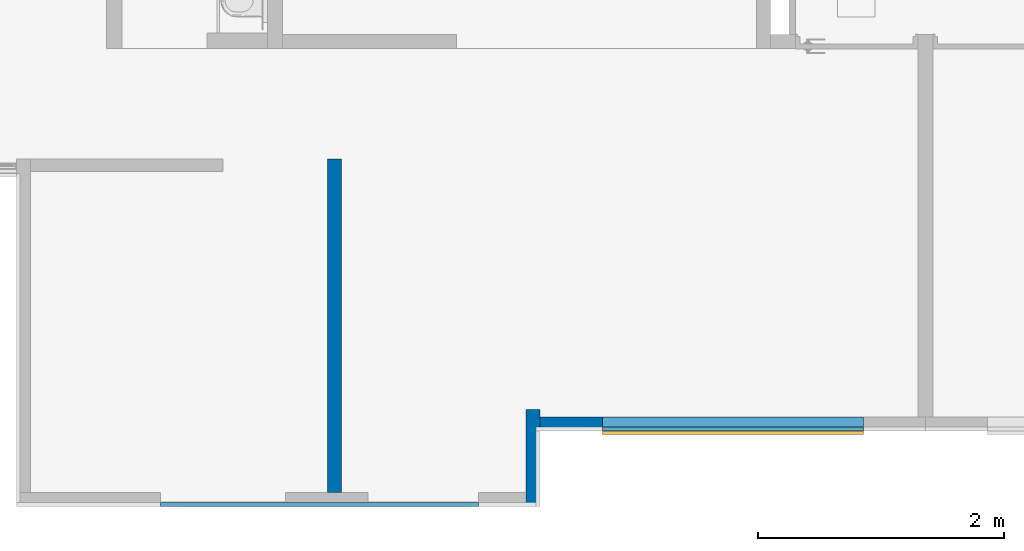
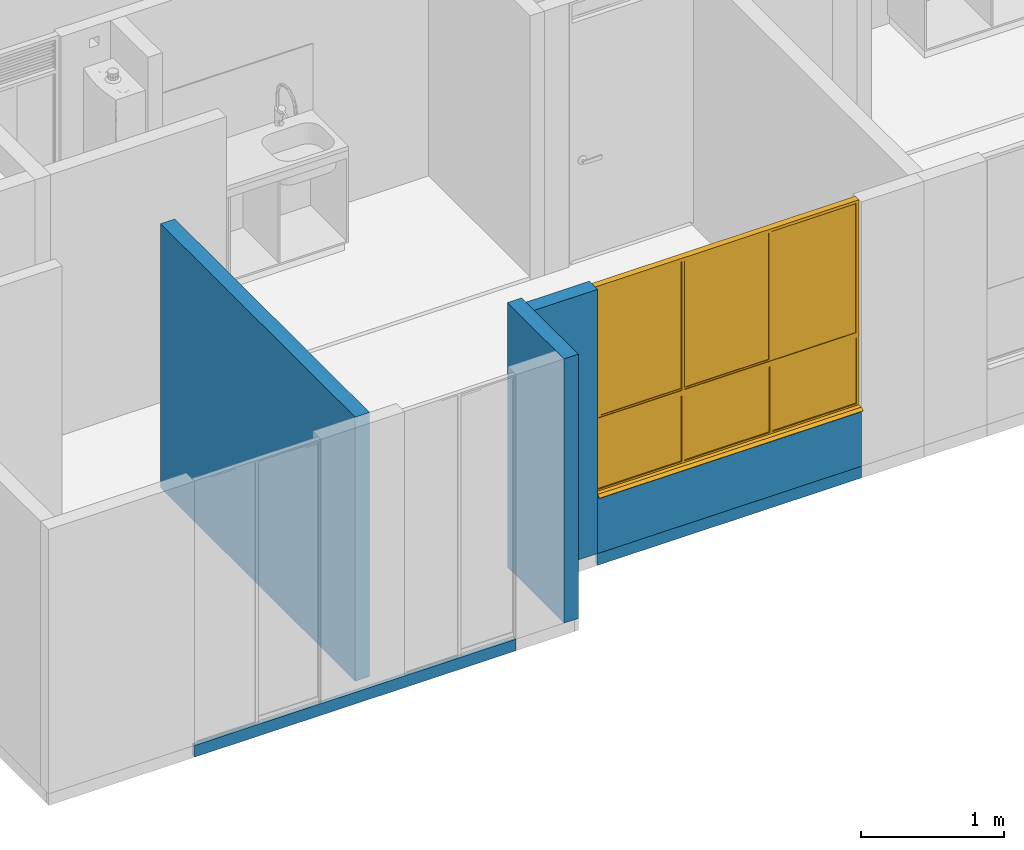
# One storey, part 6 of 47: 6 walls, 1 window, 1 opening.
"""IFC4 building model written with IfcOpenShell, lengths in metres."""

from ifc_helpers import new_model, entity, si_unit, converted_unit, derived_unit, direction, frame, origin, place, context, subcontext, project, spatial, indexed_curve, outline, extrude, polygons, source, transform, mapped, material, constituent, constituent_set, type_object, type_shapes, element, fill, save


model = new_model("IFC4")

# Units and contexts
model_context = context("Model", 3, precision=1e-05, world=origin(), true_north=direction((6.123031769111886e-17, 1.0)))
body_context = subcontext(model_context, "Body", "Model", "MODEL_VIEW")
ifc_project = project(units=[si_unit("LENGTHUNIT", "METRE"), si_unit("AREAUNIT", "SQUARE_METRE"), si_unit("VOLUMEUNIT", "CUBIC_METRE"), converted_unit("PLANEANGLEUNIT", "DEGREE", entity("IfcRatioMeasure", 0.017453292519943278), si_unit("PLANEANGLEUNIT", "RADIAN"), dimensions=[0, 0, 0, 0, 0, 0, 0]), si_unit("MASSUNIT", "GRAM", prefix="KILO"), derived_unit("MASSDENSITYUNIT", [(si_unit("MASSUNIT", "GRAM", prefix="KILO"), 1), (si_unit("LENGTHUNIT", "METRE"), -3)]), derived_unit("IONCONCENTRATIONUNIT", [(si_unit("MASSUNIT", "GRAM", prefix="KILO"), 1), (si_unit("LENGTHUNIT", "METRE"), -3)]), derived_unit("MOMENTOFINERTIAUNIT", [(si_unit("LENGTHUNIT", "METRE"), 4)]), si_unit("TIMEUNIT", "SECOND"), si_unit("FREQUENCYUNIT", "HERTZ"), si_unit("THERMODYNAMICTEMPERATUREUNIT", "DEGREE_CELSIUS"), derived_unit("THERMALTRANSMITTANCEUNIT", [(si_unit("MASSUNIT", "GRAM", prefix="KILO"), 1), (si_unit("THERMODYNAMICTEMPERATUREUNIT", "KELVIN"), -1), (si_unit("TIMEUNIT", "SECOND"), -3)]), derived_unit("THERMALCONDUCTANCEUNIT", [(si_unit("MASSUNIT", "GRAM", prefix="KILO"), 1), (si_unit("THERMODYNAMICTEMPERATUREUNIT", "KELVIN"), -1), (si_unit("TIMEUNIT", "SECOND"), -3), (si_unit("LENGTHUNIT", "METRE"), 1)]), derived_unit("VOLUMETRICFLOWRATEUNIT", [(si_unit("LENGTHUNIT", "METRE"), 3), (si_unit("TIMEUNIT", "SECOND"), -1)]), derived_unit("MASSFLOWRATEUNIT", [(si_unit("MASSUNIT", "GRAM", prefix="KILO"), 1), (si_unit("TIMEUNIT", "SECOND"), -1)]), derived_unit("ROTATIONALFREQUENCYUNIT", [(si_unit("TIMEUNIT", "SECOND"), -1)]), si_unit("ELECTRICCURRENTUNIT", "AMPERE"), si_unit("ELECTRICVOLTAGEUNIT", "VOLT"), si_unit("POWERUNIT", "WATT"), si_unit("FORCEUNIT", "NEWTON", prefix="KILO"), si_unit("ILLUMINANCEUNIT", "LUX"), si_unit("LUMINOUSFLUXUNIT", "LUMEN"), si_unit("LUMINOUSINTENSITYUNIT", "CANDELA"), derived_unit("USERDEFINED", [(si_unit("MASSUNIT", "GRAM", prefix="KILO"), -1), (si_unit("LENGTHUNIT", "METRE"), -2), (si_unit("TIMEUNIT", "SECOND"), 3), (si_unit("LUMINOUSFLUXUNIT", "LUMEN"), 1)]), derived_unit("USERDEFINED", [(si_unit("MASSUNIT", "GRAM", prefix="KILO"), 1), (si_unit("TIMEUNIT", "SECOND"), -3), (si_unit("LENGTHUNIT", "METRE"), 3), (si_unit("ELECTRICCURRENTUNIT", "AMPERE"), -2)]), derived_unit("SOUNDPOWERUNIT", [(si_unit("MASSUNIT", "GRAM", prefix="KILO"), 1), (si_unit("TIMEUNIT", "SECOND"), -3), (si_unit("LENGTHUNIT", "METRE"), 2)]), derived_unit("SOUNDPRESSUREUNIT", [(si_unit("MASSUNIT", "GRAM", prefix="KILO"), 1), (si_unit("LENGTHUNIT", "METRE"), -1), (si_unit("TIMEUNIT", "SECOND"), -2)]), derived_unit("LINEARVELOCITYUNIT", [(si_unit("LENGTHUNIT", "METRE"), 1), (si_unit("TIMEUNIT", "SECOND"), -1)]), si_unit("PRESSUREUNIT", "PASCAL"), derived_unit("USERDEFINED", [(si_unit("MASSUNIT", "GRAM", prefix="KILO"), 1), (si_unit("LENGTHUNIT", "METRE"), -2), (si_unit("TIMEUNIT", "SECOND"), -2)]), derived_unit("LINEARFORCEUNIT", [(si_unit("MASSUNIT", "GRAM", prefix="KILO"), 1), (si_unit("TIMEUNIT", "SECOND"), -2)]), derived_unit("PLANARFORCEUNIT", [(si_unit("MASSUNIT", "GRAM", prefix="KILO"), 1), (si_unit("LENGTHUNIT", "METRE"), -1), (si_unit("TIMEUNIT", "SECOND"), -2)]), derived_unit("SPECIFICHEATCAPACITYUNIT", [(si_unit("THERMODYNAMICTEMPERATUREUNIT", "KELVIN"), -1), (si_unit("LENGTHUNIT", "METRE"), 2), (si_unit("TIMEUNIT", "SECOND"), -2)]), derived_unit("HEATINGVALUEUNIT", [(si_unit("LENGTHUNIT", "METRE"), 2), (si_unit("TIMEUNIT", "SECOND"), -2)]), derived_unit("VAPORPERMEABILITYUNIT", [(si_unit("LENGTHUNIT", "METRE"), -1), (si_unit("TIMEUNIT", "SECOND"), 1)]), derived_unit("DYNAMICVISCOSITYUNIT", [(si_unit("MASSUNIT", "GRAM", prefix="KILO"), 1), (si_unit("TIMEUNIT", "SECOND"), -1), (si_unit("LENGTHUNIT", "METRE"), -1)]), derived_unit("THERMALEXPANSIONCOEFFICIENTUNIT", [(si_unit("THERMODYNAMICTEMPERATUREUNIT", "KELVIN"), -1)]), derived_unit("MODULUSOFELASTICITYUNIT", [(si_unit("MASSUNIT", "GRAM", prefix="KILO"), 1), (si_unit("LENGTHUNIT", "METRE"), -1), (si_unit("TIMEUNIT", "SECOND"), -2)]), derived_unit("ISOTHERMALMOISTURECAPACITYUNIT", [(si_unit("LENGTHUNIT", "METRE"), 3), (si_unit("MASSUNIT", "GRAM", prefix="KILO"), -1)]), derived_unit("MOISTUREDIFFUSIVITYUNIT", [(si_unit("TIMEUNIT", "SECOND"), -1), (si_unit("LENGTHUNIT", "METRE"), 2)])], contexts=[model_context])

# Site, building, storey
site_placement = place(None, origin())
site = spatial("IfcSite", under=ifc_project, at=site_placement, Name="Default", CompositionType="ELEMENT")
building_placement = place(site_placement, origin())
building = spatial("IfcBuilding", under=site, at=building_placement, CompositionType="ELEMENT")
storey_placement = place(building_placement, frame((0.0, 0.0, 11.750000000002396)))
storey = spatial("IfcBuildingStorey", under=building, at=storey_placement, Name="Nivel 6", CompositionType="ELEMENT", Elevation=11.750000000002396)

# Wall
ifc_material_1 = material(Name="Ladrillo claro (Aire)", Category="Materials")
wall_type_1 = type_object("IfcWallType", Name="Basic Wall:B2010 - 0.115m - Muro exterior en mampostería - Ladrillo", PredefinedType="STANDARD")
wall_1_placement = place(storey_placement, frame((6.124999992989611, -12.870000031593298, 0.0), z_axis=(0.0, 0.0, 1.0), x_axis=(0.0, 1.0, 0.0)))
element("IfcWall", 1, at=wall_1_placement, inside=storey, type_object=wall_type_1, material=ifc_material_1, Name="Basic Wall:B2010 - 0.115m - Muro exterior en mampostería - Ladrillo", ObjectType="Basic Wall:B2010 - 0.115m - Muro exterior en mampostería - Ladrillo", PredefinedType="NOTDEFINED", context=body_context, shape_type="SweptSolid", body=[
    extrude(outline(indexed_curve([(0.7899180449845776, 0.057499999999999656), (-6.109124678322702e-16, 0.057499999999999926), (6.109124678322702e-16, -0.057499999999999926), (0.789918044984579, -0.0575000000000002), (0.7899180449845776, 0.057499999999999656)], self_intersect=False)), origin(), (0.0, 0.0, 1.0), 2.2500000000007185),
])

# Wall, opening, window
wall_2_placement = place(storey_placement, frame((6.692499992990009, -12.197500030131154, 0.0)))
wall_2 = element("IfcWall", 2, at=wall_2_placement, inside=storey, type_object=wall_type_1, material=ifc_material_1, Name="Basic Wall:B2010 - 0.115m - Muro exterior en mampostería - Ladrillo", ObjectType="Basic Wall:B2010 - 0.115m - Muro exterior en mampostería - Ladrillo", PredefinedType="NOTDEFINED", context=body_context, shape_type="Tessellation", body=[
    polygons([(1.7081032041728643e-15, -0.057499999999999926, -2.1657342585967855e-15), (2.1249999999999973, -0.057499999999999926, -2.1657342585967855e-15), (2.1249999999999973, -0.057499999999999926, 0.5000000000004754), (1.7081032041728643e-15, -0.057499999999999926, 0.5000000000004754), (2.1249999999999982, 0.057499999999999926, -2.1657342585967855e-15), (5.438200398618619e-16, 0.057499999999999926, -2.1657342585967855e-15), (5.438200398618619e-16, 0.057499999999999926, 0.5000000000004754), (2.1249999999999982, 0.057499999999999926, 0.5000000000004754)], [[[1, 2, 3, 4]], [[5, 6, 7, 8]], [[2, 1, 6, 5]], [[2, 5, 8, 3]], [[6, 1, 4, 7]], [[4, 3, 8, 7]]], closed=True),
])
opening_placement = place(wall_2_placement, frame((2.125000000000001, 0.05749999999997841, 0.5000000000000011)))
opening = element("IfcOpeningElement", 3, at=opening_placement, cuts=wall_2, Name="B2020 - 6c Ventana corrediza - Aluminio + Vidrio:B2020 -2.13m x 1.750m - Ventana corrediza 2C - Aluminio + Vidrio:1", PredefinedType="OPENING", context=body_context, shape_type="SweptSolid", body=[
    extrude(outline(indexed_curve([(0.0, -4.087553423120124e-33), (1.7500000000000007, -4.087553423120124e-33), (1.7499999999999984, 2.125), (0.0, 2.125), (0.0, -4.087553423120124e-33)], self_intersect=False)), frame((0.0, 0.0, 0.0), z_axis=(0.0, -1.0, 0.0), x_axis=(0.0, 0.0, 1.0)), (0.0, 0.0, 1.0), 0.115),
])
ifc_material_2 = material(Name="Aluminio", Category="Materials")
ifc_constituent_1 = constituent(ifc_material_2, Name="Aluminio", Category="Materials")
ifc_material_3 = material(Name="Vidrio", Category="Materials")
ifc_constituent_2 = constituent(ifc_material_3, Name="Vidrio", Category="Materials")
ifc_material_4 = material(Name="Alfajía en aluminio", Category="Materials")
ifc_constituent_3 = constituent(ifc_material_4, Name="Alfajía en aluminio", Category="Materials")
ifc_constituent_set_1 = constituent_set(constituents=[ifc_constituent_1, ifc_constituent_2, ifc_constituent_3])
ifc_constituent_4 = constituent(ifc_material_2, Name="Aluminio", Category="Materials")
ifc_constituent_5 = constituent(ifc_material_3, Name="Vidrio", Category="Materials")
ifc_constituent_6 = constituent(ifc_material_4, Name="Alfajía en aluminio", Category="Materials")
ifc_constituent_set_2 = constituent_set(constituents=[ifc_constituent_4, ifc_constituent_5, ifc_constituent_6])
window_type = type_object("IfcWindowType", Name="B2020 - 6c Ventana corrediza - Aluminio + Vidrio:B2020 -2.13m x 1.750m - Ventana corrediza 2C - Aluminio + Vidrio", PartitioningType="NOTDEFINED", PredefinedType="WINDOW", material=ifc_constituent_set_2)
shared_shape = source(origin(), body_context, "Body", "Tessellation", [
    polygons([(0.024999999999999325, 0.03749999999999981, 1.7249999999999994), (0.025000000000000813, 0.032499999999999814, 1.7249999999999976), (0.025000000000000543, 0.032499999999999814, 0.6249999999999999), (0.024999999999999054, 0.03749999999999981, 0.6249999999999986), (2.1249999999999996, 0.03249999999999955, 0.5999999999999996), (2.1249999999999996, 0.03249999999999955, 1.749999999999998), (5.414335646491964e-16, 0.032499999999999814, 1.749999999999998), (2.707167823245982e-16, 0.032499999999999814, 0.5999999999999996), (2.099999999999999, 0.03249999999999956, 0.6249999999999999), (2.099999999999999, 0.032499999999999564, 1.7249999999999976), (2.1000000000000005, 0.03749999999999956, 0.6249999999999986), (2.1000000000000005, 0.03749999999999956, 1.7249999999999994), (2.1050000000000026, 0.03749999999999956, 0.6199999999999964), (0.01999999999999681, 0.03749999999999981, 0.6199999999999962), (0.01999999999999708, 0.03749999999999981, 1.7300000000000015), (2.1050000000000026, 0.03749999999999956, 1.7300000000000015), (0.01999999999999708, 0.05499999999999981, 1.7300000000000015), (0.01999999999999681, 0.05499999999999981, 0.6199999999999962), (2.1050000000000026, 0.05499999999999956, 0.6199999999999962), (2.1050000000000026, 0.05499999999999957, 1.7300000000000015), (2.099999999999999, 0.05499999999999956, 0.6249999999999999), (0.025000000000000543, 0.05499999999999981, 0.6249999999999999), (0.025000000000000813, 0.05499999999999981, 1.7249999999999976), (2.099999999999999, 0.05499999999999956, 1.7249999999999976), (0.025000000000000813, 0.05999999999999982, 1.7249999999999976), (0.025000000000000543, 0.05999999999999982, 0.6249999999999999), (2.099999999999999, 0.059999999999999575, 0.6249999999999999), (2.099999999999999, 0.059999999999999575, 1.7249999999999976), (2.119999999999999, 0.05999999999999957, 0.6049999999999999), (0.005000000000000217, 0.05999999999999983, 0.6049999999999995), (0.0050000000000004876, 0.05999999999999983, 1.744999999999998), (2.119999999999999, 0.05999999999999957, 1.744999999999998), (0.0050000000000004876, 0.07749999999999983, 1.744999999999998), (0.005000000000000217, 0.07749999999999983, 0.6049999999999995), (2.119999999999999, 0.07749999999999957, 0.6049999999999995), (2.119999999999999, 0.07749999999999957, 1.744999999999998), (2.099999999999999, 0.07749999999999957, 0.6249999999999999), (0.025000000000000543, 0.07749999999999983, 0.6249999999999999), (0.025000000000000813, 0.07749999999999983, 1.7249999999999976), (2.099999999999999, 0.07749999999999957, 1.7249999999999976), (0.025000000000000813, 0.08249999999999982, 1.7249999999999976), (0.025000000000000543, 0.08249999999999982, 0.6249999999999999), (2.099999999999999, 0.08249999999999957, 0.6249999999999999), (2.099999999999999, 0.08249999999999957, 1.7249999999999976), (2.1249999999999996, 0.08249999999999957, 0.5999999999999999), (2.707167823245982e-16, 0.08249999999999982, 0.5999999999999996), (5.414335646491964e-16, 0.08249999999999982, 1.749999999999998), (2.1249999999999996, 0.08249999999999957, 1.749999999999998)], [[[1, 2, 3, 4]], [[5, 6, 7, 8], [9, 3, 2, 10]], [[4, 3, 9, 11]], [[13, 14, 15, 16], [11, 12, 1, 4]], [[17, 15, 14, 18]], [[18, 14, 13, 19]], [[19, 20, 17, 18], [21, 22, 23, 24]], [[25, 23, 22, 26]], [[26, 22, 21, 27]], [[29, 30, 31, 32], [27, 28, 25, 26]], [[33, 31, 30, 34]], [[34, 30, 29, 35]], [[35, 36, 33, 34], [37, 38, 39, 40]], [[41, 39, 38, 42]], [[42, 38, 37, 43]], [[45, 46, 47, 48], [43, 44, 41, 42]], [[7, 47, 46, 8]], [[8, 46, 45, 5]], [[11, 9, 10, 12]], [[19, 13, 16, 20]], [[27, 21, 24, 28]], [[35, 29, 32, 36]], [[43, 37, 40, 44]], [[5, 45, 48, 6]], [[12, 10, 2, 1]], [[20, 16, 15, 17]], [[28, 24, 23, 25]], [[36, 32, 31, 33]], [[44, 40, 39, 41]], [[6, 48, 47, 7]]], closed=True),
    polygons([(1.4266666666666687, 0.08249999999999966, 0.6249999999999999), (1.4266666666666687, 0.05999999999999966, 0.6249999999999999), (1.406666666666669, 0.05999999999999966, 0.6249999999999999), (1.406666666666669, 0.08249999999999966, 0.6249999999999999), (1.4266666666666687, 0.08249999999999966, 1.7249999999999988), (1.4266666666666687, 0.05999999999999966, 1.7249999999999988), (1.406666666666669, 0.05999999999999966, 1.7249999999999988), (1.406666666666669, 0.08249999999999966, 1.7249999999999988)], [[[1, 2, 3, 4]], [[5, 6, 2, 1]], [[6, 7, 3, 2]], [[7, 8, 4, 3]], [[8, 5, 1, 4]], [[5, 8, 7, 6]]], closed=True),
    polygons([(0.7058333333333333, 0.06674999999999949, 1.7299999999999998), (0.7058333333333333, 0.06674999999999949, 0.6174999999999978), (2.099999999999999, 0.06674999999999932, 0.6174999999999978), (2.099999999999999, 0.06674999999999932, 1.7299999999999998), (0.7058333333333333, 0.0707499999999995, 1.7299999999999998), (0.7058333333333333, 0.0707499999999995, 0.6174999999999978), (2.099999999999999, 0.07074999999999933, 0.6174999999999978), (2.099999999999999, 0.07074999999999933, 1.7299999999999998)], [[[1, 2, 3, 4]], [[2, 1, 5, 6]], [[3, 2, 6, 7]], [[4, 3, 7, 8]], [[5, 8, 7, 6]], [[1, 4, 8, 5]]], closed=True),
    polygons([(0.7058333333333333, 0.07074999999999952, 0.6225000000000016), (0.7058333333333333, 0.06674999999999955, 0.6225000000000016), (2.095000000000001, 0.06674999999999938, 0.6225000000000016), (2.095000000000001, 0.07074999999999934, 0.6225000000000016), (2.0950000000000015, 0.06674999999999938, 1.730000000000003), (2.0950000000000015, 0.07074999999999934, 1.730000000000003), (0.7058333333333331, 0.06674999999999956, 1.730000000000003), (2.0800000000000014, 0.06674999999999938, 1.7150000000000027), (0.7208333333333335, 0.06674999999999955, 1.7150000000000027), (0.7208333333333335, 0.06674999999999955, 0.637500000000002), (2.080000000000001, 0.06674999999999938, 0.637500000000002), (2.080000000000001, 0.07074999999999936, 0.6375000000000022), (0.7208333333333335, 0.07074999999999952, 0.637500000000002), (0.7208333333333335, 0.07074999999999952, 1.7150000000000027), (2.0800000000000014, 0.07074999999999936, 1.7150000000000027), (0.7058333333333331, 0.07074999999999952, 1.730000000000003), (0.7208333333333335, 0.07549999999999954, 0.637500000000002), (2.080000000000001, 0.07549999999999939, 0.637500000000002), (2.0800000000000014, 0.07549999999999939, 1.7150000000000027), (2.1000000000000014, 0.07549999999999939, 0.6175000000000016), (0.7008333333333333, 0.07549999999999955, 0.6175000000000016), (0.7008333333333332, 0.07549999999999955, 1.735000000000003), (2.1000000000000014, 0.07549999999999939, 1.735000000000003), (0.7208333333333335, 0.07549999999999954, 1.7150000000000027), (0.7008333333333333, 0.06199999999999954, 0.6175000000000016), (2.1000000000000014, 0.061999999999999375, 0.6175000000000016), (2.1000000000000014, 0.061999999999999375, 1.735000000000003), (2.080000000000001, 0.06199999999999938, 0.6375000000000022), (0.7208333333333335, 0.06199999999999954, 0.637500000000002), (0.7208333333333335, 0.06199999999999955, 1.7150000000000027), (2.0800000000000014, 0.06199999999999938, 1.7150000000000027), (0.7008333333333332, 0.06199999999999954, 1.735000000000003)], [[[1, 2, 3, 4]], [[4, 3, 5, 6]], [[3, 2, 7, 5], [8, 9, 10, 11]], [[6, 16, 1, 4], [12, 13, 14, 15]], [[17, 13, 12, 18]], [[18, 12, 15, 19]], [[20, 21, 22, 23], [19, 24, 17, 18]], [[25, 21, 20, 26]], [[26, 20, 23, 27]], [[27, 32, 25, 26], [28, 29, 30, 31]], [[10, 29, 28, 11]], [[11, 28, 31, 8]], [[16, 7, 2, 1]], [[24, 14, 13, 17]], [[32, 22, 21, 25]], [[9, 30, 29, 10]], [[6, 5, 7, 16]], [[19, 15, 14, 24]], [[27, 23, 22, 32]], [[8, 31, 30, 9]]], closed=True),
    polygons([(0.025000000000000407, 0.04424999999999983, 1.7299999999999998), (0.025000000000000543, 0.04424999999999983, 0.6174999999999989), (0.713333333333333, 0.04424999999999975, 0.6174999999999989), (0.7133333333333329, 0.04424999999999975, 1.7299999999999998), (0.025000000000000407, 0.04824999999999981, 1.7299999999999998), (0.025000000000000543, 0.04824999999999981, 0.6174999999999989), (0.713333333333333, 0.048249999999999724, 0.6174999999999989), (0.7133333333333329, 0.048249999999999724, 1.7299999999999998)], [[[1, 2, 3, 4]], [[2, 1, 5, 6]], [[3, 2, 6, 7]], [[4, 3, 7, 8]], [[5, 8, 7, 6]], [[1, 4, 8, 5]]], closed=True),
    polygons([(0.025000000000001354, 0.04824999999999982, 0.6224999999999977), (0.025000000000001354, 0.04424999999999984, 0.6224999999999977), (0.713333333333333, 0.044249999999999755, 0.6224999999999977), (0.713333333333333, 0.04824999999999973, 0.6224999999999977), (0.713333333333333, 0.044249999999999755, 1.729999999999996), (0.713333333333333, 0.04824999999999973, 1.729999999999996), (0.025000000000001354, 0.04424999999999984, 1.729999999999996), (0.6983333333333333, 0.044249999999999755, 1.714999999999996), (0.040000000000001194, 0.04424999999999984, 1.714999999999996), (0.040000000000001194, 0.04424999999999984, 0.6374999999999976), (0.6983333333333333, 0.044249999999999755, 0.6374999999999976), (0.6983333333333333, 0.04824999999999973, 0.6374999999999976), (0.040000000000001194, 0.04824999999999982, 0.6374999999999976), (0.040000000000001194, 0.04824999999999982, 1.714999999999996), (0.6983333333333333, 0.04824999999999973, 1.714999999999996), (0.025000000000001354, 0.04824999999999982, 1.729999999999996), (0.040000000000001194, 0.052999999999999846, 0.6374999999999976), (0.6983333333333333, 0.05299999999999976, 0.6374999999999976), (0.6983333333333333, 0.05299999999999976, 1.714999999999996), (0.7183333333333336, 0.052999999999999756, 0.6174999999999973), (0.020000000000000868, 0.052999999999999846, 0.6174999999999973), (0.020000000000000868, 0.052999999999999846, 1.7349999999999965), (0.7183333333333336, 0.05299999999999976, 1.7349999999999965), (0.040000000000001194, 0.052999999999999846, 1.714999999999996), (0.020000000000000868, 0.03949999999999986, 0.6174999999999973), (0.7183333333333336, 0.03949999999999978, 0.6174999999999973), (0.7183333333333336, 0.03949999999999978, 1.7349999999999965), (0.6983333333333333, 0.039499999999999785, 0.6374999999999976), (0.040000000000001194, 0.039499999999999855, 0.6374999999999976), (0.040000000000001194, 0.039499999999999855, 1.714999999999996), (0.6983333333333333, 0.03949999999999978, 1.714999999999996), (0.020000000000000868, 0.03949999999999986, 1.7349999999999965)], [[[1, 2, 3, 4]], [[4, 3, 5, 6]], [[3, 2, 7, 5], [8, 9, 10, 11]], [[6, 16, 1, 4], [12, 13, 14, 15]], [[17, 13, 12, 18]], [[18, 12, 15, 19]], [[20, 21, 22, 23], [19, 24, 17, 18]], [[25, 21, 20, 26]], [[26, 20, 23, 27]], [[27, 32, 25, 26], [28, 29, 30, 31]], [[10, 29, 28, 11]], [[11, 28, 31, 8]], [[16, 7, 2, 1]], [[24, 14, 13, 17]], [[32, 22, 21, 25]], [[9, 30, 29, 10]], [[6, 5, 7, 16]], [[19, 15, 14, 24]], [[27, 23, 22, 32]], [[8, 31, 30, 9]]], closed=True),
    polygons([(2.1049999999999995, 0.04424999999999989, 1.7299999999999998), (0.025000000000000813, 0.04424999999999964, 1.7299999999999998), (0.025000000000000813, 0.04424999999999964, 0.6174999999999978), (2.1049999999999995, 0.04424999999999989, 0.6174999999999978), (0.025000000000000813, 0.04824999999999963, 1.7299999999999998), (0.025000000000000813, 0.04824999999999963, 0.6174999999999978), (2.1049999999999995, 0.04824999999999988, 0.6174999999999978), (2.1049999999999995, 0.04824999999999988, 1.7299999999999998)], [[[1, 2, 3, 4]], [[3, 2, 5, 6]], [[4, 3, 6, 7]], [[1, 4, 7, 8]], [[8, 7, 6, 5]], [[2, 1, 8, 5]]], closed=True),
    polygons([(0.020000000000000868, 0.06674999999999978, 1.7299999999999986), (0.020000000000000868, 0.06674999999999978, 0.6174999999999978), (2.1049999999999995, 0.06674999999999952, 0.6174999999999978), (2.104999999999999, 0.06674999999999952, 1.7299999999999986), (0.020000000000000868, 0.07074999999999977, 1.7299999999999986), (0.020000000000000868, 0.07074999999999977, 0.6174999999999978), (2.1049999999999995, 0.07074999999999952, 0.6174999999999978), (2.104999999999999, 0.07074999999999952, 1.7299999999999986)], [[[1, 2, 3, 4]], [[2, 1, 5, 6]], [[3, 2, 6, 7]], [[4, 3, 7, 8]], [[5, 8, 7, 6]], [[1, 4, 8, 5]]], closed=True),
    polygons([(0.019999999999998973, 0.06813901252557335, 0.5800000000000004), (0.01999999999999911, 0.06813901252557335, 0.019999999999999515), (2.1050000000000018, 0.06813901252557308, 0.019999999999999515), (2.1050000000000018, 0.06813901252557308, 0.5800000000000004), (0.019999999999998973, 0.07213901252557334, 0.5800000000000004), (2.1050000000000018, 0.07213901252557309, 0.5800000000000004), (2.1050000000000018, 0.07213901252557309, 0.019999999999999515), (0.01999999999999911, 0.07213901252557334, 0.019999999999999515)], [[[1, 2, 3, 4]], [[5, 6, 7, 8]], [[2, 1, 5, 8]], [[3, 2, 8, 7]], [[4, 3, 7, 6]], [[1, 4, 6, 5]]], closed=True),
    polygons([(1.4266666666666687, 0.08250000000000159, 0.5799999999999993), (1.406666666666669, 0.08250000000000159, 0.5799999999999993), (1.406666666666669, 0.03250000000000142, 0.5799999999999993), (1.4266666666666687, 0.03250000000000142, 0.5799999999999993), (1.4266666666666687, 0.08250000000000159, 0.019999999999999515), (1.4266666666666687, 0.03250000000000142, 0.019999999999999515), (1.406666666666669, 0.03250000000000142, 0.019999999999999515), (1.406666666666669, 0.08250000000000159, 0.019999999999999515)], [[[1, 2, 3, 4]], [[5, 6, 7, 8]], [[2, 1, 5, 8]], [[3, 2, 8, 7]], [[4, 3, 7, 6]], [[1, 4, 6, 5]]], closed=True),
    polygons([(4.060751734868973e-16, 0.08249999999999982, 4.060751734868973e-16), (2.707167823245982e-16, 0.08249999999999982, 0.5999999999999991), (2.1249999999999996, 0.08249999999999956, 0.5999999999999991), (2.125, 0.08249999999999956, 2.707167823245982e-16), (0.718333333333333, 0.08250000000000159, 0.5799999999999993), (0.718333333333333, 0.08250000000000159, 0.01999999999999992), (2.105, 0.0825000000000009, 0.020000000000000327), (2.105, 0.0825000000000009, 0.5799999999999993), (0.6983333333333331, 0.08250000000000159, 0.01999999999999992), (0.6983333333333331, 0.08250000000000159, 0.5799999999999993), (0.020000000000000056, 0.08250000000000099, 0.5799999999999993), (0.020000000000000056, 0.08250000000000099, 0.020000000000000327), (0.6983333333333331, 0.03250000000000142, 0.01999999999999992), (0.6983333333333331, 0.03250000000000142, 0.5799999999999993), (0.02000000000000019, 0.032499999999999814, 0.020000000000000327), (0.020000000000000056, 0.032499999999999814, 0.5799999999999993), (4.060751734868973e-16, 0.03250000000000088, 0.5999999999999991), (4.060751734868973e-16, 0.03250000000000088, 4.060751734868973e-16), (2.125, 0.0325000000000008, 4.060751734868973e-16), (2.125, 0.0325000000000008, 0.5999999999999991), (0.7183333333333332, 0.03250000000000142, 0.01999999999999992), (0.718333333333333, 0.03250000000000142, 0.5799999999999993), (2.105, 0.03249999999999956, 0.5799999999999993), (2.105, 0.03249999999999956, 0.020000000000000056)], [[[1, 2, 3, 4], [5, 6, 7, 8], [9, 10, 11, 12]], [[10, 9, 13, 14]], [[17, 18, 19, 20], [14, 13, 15, 16], [21, 22, 23, 24]], [[6, 5, 22, 21]], [[11, 16, 15, 12]], [[17, 2, 1, 18]], [[12, 15, 13, 9]], [[18, 1, 4, 19]], [[7, 24, 23, 8]], [[19, 4, 3, 20]], [[8, 23, 22, 5]], [[2, 17, 20, 3]], [[16, 11, 10, 14]], [[24, 7, 6, 21]]], closed=True),
    polygons([(0.7183333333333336, 0.07213901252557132, 0.5849999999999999), (0.7183333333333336, 0.06813901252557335, 0.5849999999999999), (2.1050000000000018, 0.06813901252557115, 0.5849999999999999), (2.1050000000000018, 0.07213901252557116, 0.5849999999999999), (0.7183333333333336, 0.07213901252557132, 0.019999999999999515), (2.1050000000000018, 0.07213901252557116, 0.019999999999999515), (2.1050000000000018, 0.06813901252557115, 0.019999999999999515), (0.7183333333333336, 0.06813901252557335, 0.019999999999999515)], [[[1, 2, 3, 4]], [[5, 6, 7, 8]], [[1, 4, 6, 5]], [[4, 3, 7, 6]], [[3, 2, 8, 7]], [[2, 1, 5, 8]]], closed=True),
    polygons([(-8.121503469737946e-16, 0.11499999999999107, -4.060751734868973e-16), (-8.121503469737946e-16, 0.08249999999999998, -4.060751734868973e-16), (-8.121503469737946e-16, 0.08249999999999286, 0.0049999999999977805), (-8.121503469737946e-16, 0.11633974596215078, 0.0049999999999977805), (-6.767919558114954e-16, 0.14348076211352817, -0.010669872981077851), (-6.767919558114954e-16, 0.1409807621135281, -0.015000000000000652), (2.124999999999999, 0.11499999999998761, -4.060751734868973e-16), (2.124999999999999, 0.14098076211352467, -0.015000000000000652), (2.124999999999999, 0.1434807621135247, -0.010669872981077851), (2.124999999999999, 0.11633974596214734, 0.0049999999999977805), (2.124999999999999, 0.0824999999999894, 0.0049999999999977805), (2.124999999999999, 0.08249999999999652, -4.060751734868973e-16)], [[[1, 2, 3, 4, 5, 6]], [[7, 8, 9, 10, 11, 12]], [[2, 1, 7, 12]], [[3, 2, 12, 11]], [[4, 3, 11, 10]], [[5, 4, 10, 9]], [[6, 5, 9, 8]], [[1, 6, 8, 7]]], closed=True),
    polygons([(0.6983333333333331, 0.07213901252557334, 0.5849999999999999), (0.01999999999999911, 0.07213901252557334, 0.5849999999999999), (0.019999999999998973, 0.06813901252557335, 0.5849999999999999), (0.6983333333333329, 0.06813901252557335, 0.5849999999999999), (0.6983333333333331, 0.07213901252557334, 0.019999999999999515), (0.6983333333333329, 0.06813901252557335, 0.019999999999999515), (0.019999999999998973, 0.06813901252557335, 0.019999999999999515), (0.01999999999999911, 0.07213901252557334, 0.019999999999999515)], [[[1, 2, 3, 4]], [[5, 6, 7, 8]], [[2, 1, 5, 8]], [[3, 2, 8, 7]], [[4, 3, 7, 6]], [[1, 4, 6, 5]]], closed=True),
])
type_shapes(window_type, [shared_shape])
window_placement = place(opening_placement, frame((0.0, 0.0, 0.0), z_axis=(0.0, 0.0, 1.0), x_axis=(-1.0, 0.0, 0.0)))
window = element("IfcWindow", 4, at=window_placement, inside=storey, type_object=window_type, material=ifc_constituent_set_1, Name="B2020 - 6c Ventana corrediza - Aluminio + Vidrio:B2020 -2.13m x 1.750m - Ventana corrediza 2C - Aluminio + Vidrio", ObjectType="B2020 - 6c Ventana corrediza - Aluminio + Vidrio:B2020 -2.13m x 1.750m - Ventana corrediza 2C - Aluminio + Vidrio", OverallHeight=1.7500000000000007, OverallWidth=2.125, PartitioningType="NOTDEFINED", PredefinedType="WINDOW", context=body_context, shape_type="MappedRepresentation", body=[
    mapped(shared_shape, transform((0.0, 0.0, 0.0), scale=1.0)),
])
fill(opening, window)

# Walls
ifc_material_5 = material(Name="LADRILLO CLARO", Category="Materials")
wall_type_2 = type_object("IfcWallType", Name="Basic Wall:B2010 - 0.115m - ME mampostería no estructural - Ladrillo", PredefinedType="STANDARD")
wall_3_placement = place(storey_placement, frame((6.182499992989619, -12.197500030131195, 0.0)))
element("IfcWall", 5, at=wall_3_placement, inside=storey, type_object=wall_type_2, material=ifc_material_5, Name="Basic Wall:B2010 - 0.115m - ME mampostería no estructural - Ladrillo", ObjectType="Basic Wall:B2010 - 0.115m - ME mampostería no estructural - Ladrillo", PredefinedType="NOTDEFINED", context=body_context, shape_type="SweptSolid", body=[
    extrude(outline(indexed_curve([(0.5100000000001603, 0.057500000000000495), (1.4767324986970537e-16, 0.057499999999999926), (-1.4767324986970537e-16, -0.057499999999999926), (0.5100000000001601, -0.05749999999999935), (0.5100000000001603, 0.057500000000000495)], self_intersect=False)), origin(), (0.0, 0.0, 1.0), 2.2500000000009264),
])
wall_type_3 = type_object("IfcWallType", Name="Basic Wall:B2010 - 0.115m - Muro interior en mampostería - Ladrillo", PredefinedType="STANDARD")
wall_4_placement = place(storey_placement, frame((4.509999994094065, -12.75500003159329, 0.0), z_axis=(0.0, 0.0, 1.0), x_axis=(0.0, 1.0, 0.0)))
element("IfcWall", 6, at=wall_4_placement, inside=storey, type_object=wall_type_3, material=ifc_material_1, Name="Basic Wall:B2010 - 0.115m - Muro interior en mampostería - Ladrillo", ObjectType="Basic Wall:B2010 - 0.115m - Muro interior en mampostería - Ladrillo", PredefinedType="NOTDEFINED", context=body_context, shape_type="SweptSolid", body=[
    extrude(outline(indexed_curve([(2.715000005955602, 0.05749999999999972), (-8.09883786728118e-16, 0.057499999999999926), (8.09883786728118e-16, -0.057499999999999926), (2.715000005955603, -0.05750000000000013), (2.715000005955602, 0.05749999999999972)], self_intersect=False)), origin(), (0.0, 0.0, 1.0), 2.2499999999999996),
])
wall_type_4 = type_object("IfcWallType", Name="Basic Wall:B2010 - 0.03m - ME enchape  no estructural - Ladrillo", PredefinedType="STANDARD")
wall_5_placement = place(storey_placement, frame((5.682499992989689, -12.855000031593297, -0.10000000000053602), z_axis=(0.0, 0.0, 1.0), x_axis=(-1.0, 0.0, 0.0)))
element("IfcWall", 7, at=wall_5_placement, inside=storey, type_object=wall_type_4, material=ifc_material_5, Name="Basic Wall:B2010 - 0.03m - ME enchape  no estructural - Ladrillo", ObjectType="Basic Wall:B2010 - 0.03m - ME enchape  no estructural - Ladrillo", PredefinedType="NOTDEFINED", context=body_context, shape_type="SweptSolid", body=[
    extrude(outline(indexed_curve([(2.5899999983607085, 0.014999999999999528), (4.570130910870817e-17, 0.015000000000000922), (-4.570130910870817e-17, -0.015000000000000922), (2.5899999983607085, -0.015000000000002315), (2.5899999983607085, 0.014999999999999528)], self_intersect=False)), origin(), (0.0, 0.0, 1.0), 0.09999999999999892),
])
wall_6_placement = place(storey_placement, frame((8.817500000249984, -12.240000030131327, -0.10000000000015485), z_axis=(0.0, 0.0, 1.0), x_axis=(-1.0, 0.0, 0.0)))
element("IfcWall", 8, at=wall_6_placement, inside=storey, type_object=wall_type_4, material=ifc_material_5, Name="Basic Wall:B2010 - 0.03m - ME enchape  no estructural - Ladrillo", ObjectType="Basic Wall:B2010 - 0.03m - ME enchape  no estructural - Ladrillo", PredefinedType="NOTDEFINED", context=body_context, shape_type="SweptSolid", body=[
    extrude(outline(indexed_curve([(2.125000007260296, 0.01500000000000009), (5.1729321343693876e-17, 0.015000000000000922), (-5.1729321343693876e-17, -0.015000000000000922), (2.125000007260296, -0.015000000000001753), (2.125000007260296, 0.01500000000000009)], self_intersect=False)), origin(), (0.0, 0.0, 1.0), 0.09999999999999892),
])

save(model, "model.ifc")
